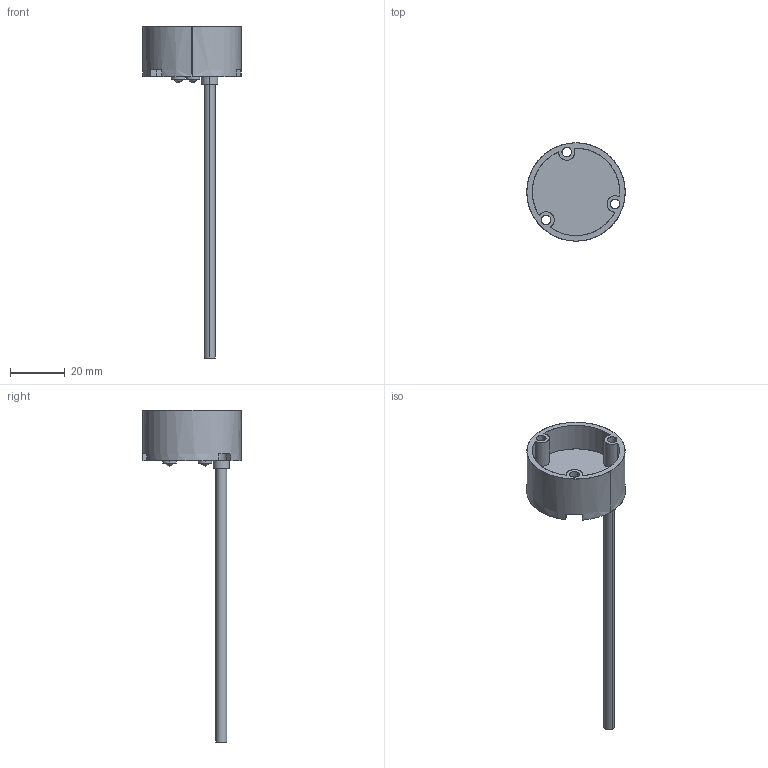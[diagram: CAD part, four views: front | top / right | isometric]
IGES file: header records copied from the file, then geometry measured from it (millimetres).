
Start section: SolidWorks IGES file using analytic representation for surfaces
Global section: file name: C:\Users\Toshiba\Desktop\SR3.IGS; native system: SolidWorks 2014; preprocessor: SolidWorks 2014; author: Toshiba; date: 160621.091037; units: metre
Bounding box: 36 x 36 x 121.5 mm (x, y, z)
Surface area: 7232.4 mm2 (no closed solid volume)
Topology: 0 solids, 0 shells, 54 faces, 1139 edges, 1135 vertices
Faces by surface type: revolution 34, bspline 20
